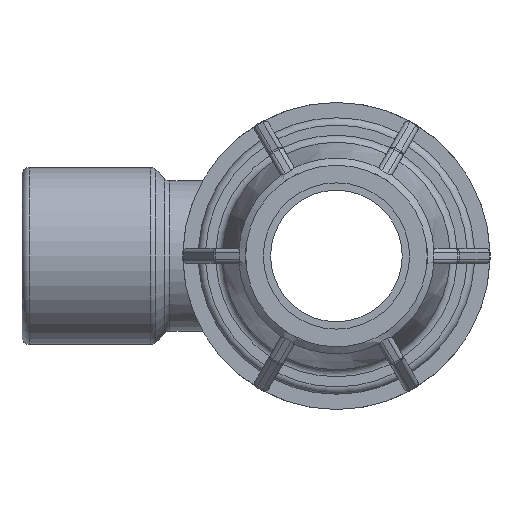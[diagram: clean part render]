
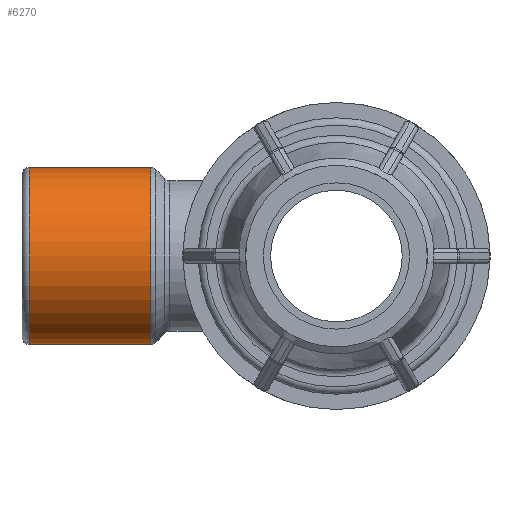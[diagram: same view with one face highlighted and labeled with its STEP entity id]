
A CAD part, left-side view. The second image highlights one B-rep face of the part: STEP entity #6270.
In plain terms, the highlighted cylindrical face has radius 12.11 mm (diameter 24.22 mm), a full revolution.
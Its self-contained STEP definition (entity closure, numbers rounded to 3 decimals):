
#1261=FACE_BOUND('',#2114,.T.);
#1671=FACE_OUTER_BOUND('',#2113,.T.);
#2113=EDGE_LOOP('',(#5730));
#2114=EDGE_LOOP('',(#5731));
#2466=CIRCLE('',#7019,12.11);
#2468=CIRCLE('',#7022,12.11);
#3005=VERTEX_POINT('',#12004);
#3007=VERTEX_POINT('',#12009);
#3916=EDGE_CURVE('',#3005,#3005,#2466,.T.);
#3918=EDGE_CURVE('',#3007,#3007,#2468,.T.);
#5730=ORIENTED_EDGE('',*,*,#3918,.F.);
#5731=ORIENTED_EDGE('',*,*,#3916,.F.);
#5865=CYLINDRICAL_SURFACE('',#7021,12.11);
#6270=ADVANCED_FACE('',(#1671,#1261),#5865,.T.);
#7019=AXIS2_PLACEMENT_3D('',#12005,#8875,#8876);
#7021=AXIS2_PLACEMENT_3D('',#12008,#8879,#8880);
#7022=AXIS2_PLACEMENT_3D('',#12010,#8881,#8882);
#8875=DIRECTION('center_axis',(0.,1.,0.));
#8876=DIRECTION('ref_axis',(1.,0.,0.));
#8879=DIRECTION('center_axis',(0.,1.,0.));
#8880=DIRECTION('ref_axis',(-1.,0.,0.));
#8881=DIRECTION('center_axis',(0.,-1.,0.));
#8882=DIRECTION('ref_axis',(1.,0.,0.));
#12004=CARTESIAN_POINT('',(-12.11,42.,0.));
#12005=CARTESIAN_POINT('Origin',(0.,42.,0.));
#12008=CARTESIAN_POINT('Origin',(0.,34.,0.));
#12009=CARTESIAN_POINT('',(-12.11,25.414,0.));
#12010=CARTESIAN_POINT('Origin',(0.,25.414,0.));
